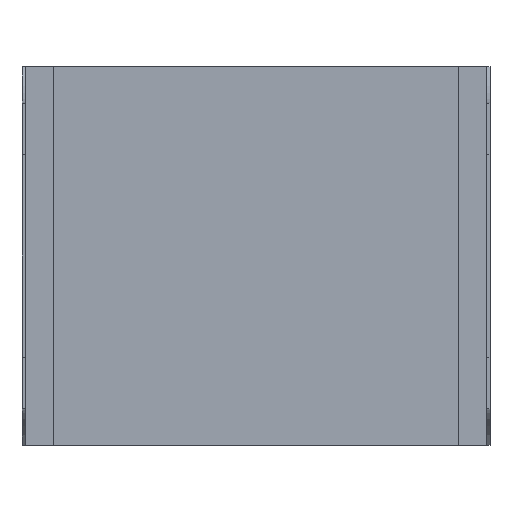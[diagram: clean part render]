
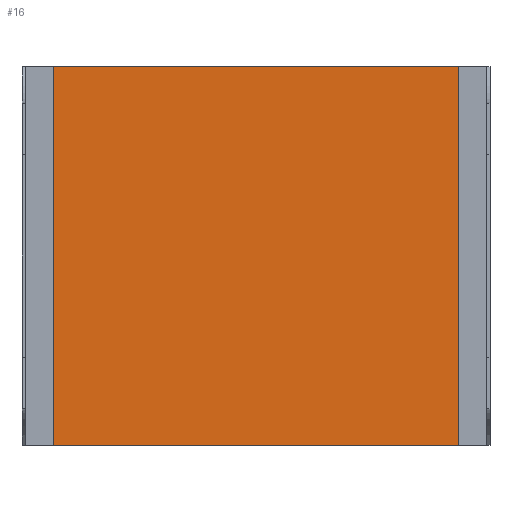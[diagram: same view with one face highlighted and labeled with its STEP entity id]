
A CAD part, front view. The second image highlights one B-rep face of the part: STEP entity #16.
In plain terms, the highlighted planar face has unit normal (0, -1, 0).
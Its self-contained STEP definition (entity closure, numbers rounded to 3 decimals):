
#16 = ADVANCED_FACE ( 'NONE', ( #673 ), #232, .F. ) ;
#117 = CARTESIAN_POINT ( 'NONE',  ( -152.4, -68., 142.5 ) ) ;
#118 = LINE ( 'NONE', #882, #120 ) ;
#120 = VECTOR ( 'NONE', #880, 1000. ) ;
#131 = DIRECTION ( 'NONE',  ( -1., 0., 0. ) ) ;
#158 = LINE ( 'NONE', #825, #162 ) ;
#162 = VECTOR ( 'NONE', #822, 1000. ) ;
#183 = DIRECTION ( 'NONE',  ( 0., 1., 0. ) ) ;
#232 = PLANE ( 'NONE',  #473 ) ;
#389 = ORIENTED_EDGE ( 'NONE', *, *, #1427, .T. ) ;
#397 = ORIENTED_EDGE ( 'NONE', *, *, #1502, .F. ) ;
#406 = ORIENTED_EDGE ( 'NONE', *, *, #1406, .F. ) ;
#408 = ORIENTED_EDGE ( 'NONE', *, *, #1486, .T. ) ;
#473 = AXIS2_PLACEMENT_3D ( 'NONE', #117, #183, #131 ) ;
#556 = VECTOR ( 'NONE', #1213, 1000. ) ;
#559 = LINE ( 'NONE', #1216, #556 ) ;
#614 = VECTOR ( 'NONE', #1267, 1000. ) ;
#619 = LINE ( 'NONE', #1273, #614 ) ;
#673 = FACE_OUTER_BOUND ( 'NONE', #1097, .T. ) ;
#822 = DIRECTION ( 'NONE',  ( 0., 0., -1. ) ) ;
#825 = CARTESIAN_POINT ( 'NONE',  ( 152.4, -68., 142.5 ) ) ;
#880 = DIRECTION ( 'NONE',  ( 0., 0., -1. ) ) ;
#882 = CARTESIAN_POINT ( 'NONE',  ( -152.4, -68., 142.5 ) ) ;
#971 = VERTEX_POINT ( 'NONE', #1203 ) ;
#984 = VERTEX_POINT ( 'NONE', #1177 ) ;
#987 = VERTEX_POINT ( 'NONE', #1169 ) ;
#1002 = VERTEX_POINT ( 'NONE', #1385 ) ;
#1097 = EDGE_LOOP ( 'NONE', ( #389, #397, #406, #408 ) ) ;
#1169 = CARTESIAN_POINT ( 'NONE',  ( -152.4, -68., 142.5 ) ) ;
#1177 = CARTESIAN_POINT ( 'NONE',  ( 152.4, -68., 142.5 ) ) ;
#1203 = CARTESIAN_POINT ( 'NONE',  ( 152.4, -68., -142.5 ) ) ;
#1213 = DIRECTION ( 'NONE',  ( 1., 0., 0. ) ) ;
#1216 = CARTESIAN_POINT ( 'NONE',  ( -152.4, -68., -142.5 ) ) ;
#1267 = DIRECTION ( 'NONE',  ( 1., 0., 0. ) ) ;
#1273 = CARTESIAN_POINT ( 'NONE',  ( -152.4, -68., 142.5 ) ) ;
#1385 = CARTESIAN_POINT ( 'NONE',  ( -152.4, -68., -142.5 ) ) ;
#1406 = EDGE_CURVE ( 'NONE', #987, #984, #619, .T. ) ;
#1427 = EDGE_CURVE ( 'NONE', #1002, #971, #559, .T. ) ;
#1486 = EDGE_CURVE ( 'NONE', #987, #1002, #118, .T. ) ;
#1502 = EDGE_CURVE ( 'NONE', #984, #971, #158, .T. ) ;
